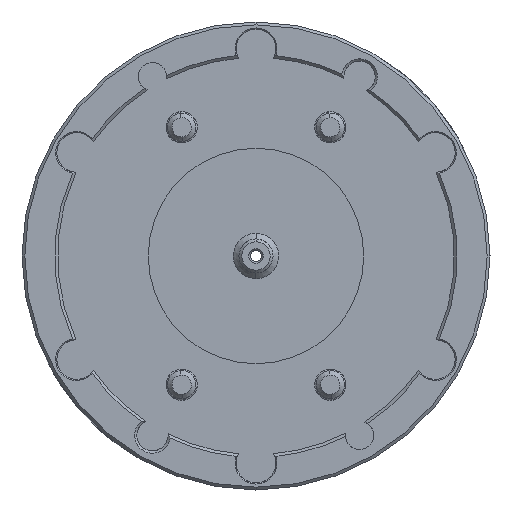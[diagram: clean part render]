
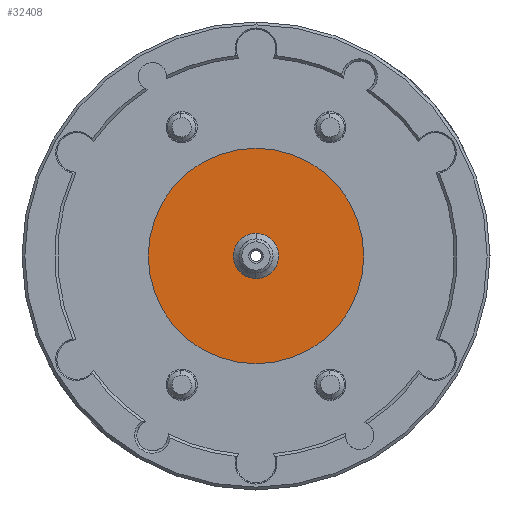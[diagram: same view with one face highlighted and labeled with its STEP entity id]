
A CAD part, left-side view. The second image highlights one B-rep face of the part: STEP entity #32408.
In plain terms, the highlighted planar face has unit normal (-1, 0, 0).
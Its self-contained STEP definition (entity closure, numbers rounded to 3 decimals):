
#4 = FACE_BOUND ( 'NONE', #19873, .T. ) ;
#24 = DIRECTION ( 'NONE',  ( 1., 0., 0. ) ) ;
#741 = CARTESIAN_POINT ( 'NONE',  ( -100., 0., 0. ) ) ;
#1840 = DIRECTION ( 'NONE',  ( 0., 0., -1. ) ) ;
#5923 = CARTESIAN_POINT ( 'NONE',  ( -100., 0., -38. ) ) ;
#6539 = EDGE_CURVE ( 'NONE', #42373, #39743, #6886, .T. ) ;
#6886 = CIRCLE ( 'NONE', #32316, 8. ) ;
#8845 = CARTESIAN_POINT ( 'NONE',  ( -100., 0., 0. ) ) ;
#10014 = DIRECTION ( 'NONE',  ( 0., 0., -1. ) ) ;
#10105 = DIRECTION ( 'NONE',  ( 1., 0., 0. ) ) ;
#10114 = AXIS2_PLACEMENT_3D ( 'NONE', #29188, #38804, #12912 ) ;
#10152 = CARTESIAN_POINT ( 'NONE',  ( -100., 0., 0. ) ) ;
#11942 = EDGE_CURVE ( 'NONE', #26613, #30673, #37397, .T. ) ;
#12218 = DIRECTION ( 'NONE',  ( 0., 0., -1. ) ) ;
#12912 = DIRECTION ( 'NONE',  ( 0., 0., -1. ) ) ;
#14712 = CARTESIAN_POINT ( 'NONE',  ( -100., 0., 38. ) ) ;
#16119 = AXIS2_PLACEMENT_3D ( 'NONE', #8845, #31772, #12218 ) ;
#17920 = EDGE_CURVE ( 'NONE', #39743, #42373, #25154, .T. ) ;
#19873 = EDGE_LOOP ( 'NONE', ( #31359, #31856 ) ) ;
#22232 = CARTESIAN_POINT ( 'NONE',  ( -100., 0.021, -8. ) ) ;
#25010 = CIRCLE ( 'NONE', #16119, 38. ) ;
#25154 = CIRCLE ( 'NONE', #36634, 8. ) ;
#25298 = FACE_OUTER_BOUND ( 'NONE', #42515, .T. ) ;
#26613 = VERTEX_POINT ( 'NONE', #5923 ) ;
#29188 = CARTESIAN_POINT ( 'NONE',  ( -100., -38., 0. ) ) ;
#30384 = AXIS2_PLACEMENT_3D ( 'NONE', #36798, #36758, #36708 ) ;
#30673 = VERTEX_POINT ( 'NONE', #14712 ) ;
#31359 = ORIENTED_EDGE ( 'NONE', *, *, #6539, .T. ) ;
#31772 = DIRECTION ( 'NONE',  ( 1., 0., 0. ) ) ;
#31856 = ORIENTED_EDGE ( 'NONE', *, *, #17920, .T. ) ;
#32316 = AXIS2_PLACEMENT_3D ( 'NONE', #741, #24, #1840 ) ;
#32408 = ADVANCED_FACE ( 'NONE', ( #4, #25298 ), #32472, .F. ) ;
#32472 = PLANE ( 'NONE',  #10114 ) ;
#32857 = ORIENTED_EDGE ( 'NONE', *, *, #11942, .F. ) ;
#33578 = ORIENTED_EDGE ( 'NONE', *, *, #36838, .F. ) ;
#36600 = CARTESIAN_POINT ( 'NONE',  ( -100., -0.021, 8. ) ) ;
#36634 = AXIS2_PLACEMENT_3D ( 'NONE', #10152, #10105, #10014 ) ;
#36708 = DIRECTION ( 'NONE',  ( 0., 0., -1. ) ) ;
#36758 = DIRECTION ( 'NONE',  ( 1., 0., 0. ) ) ;
#36798 = CARTESIAN_POINT ( 'NONE',  ( -100., 0., 0. ) ) ;
#36838 = EDGE_CURVE ( 'NONE', #30673, #26613, #25010, .T. ) ;
#37397 = CIRCLE ( 'NONE', #30384, 38. ) ;
#38804 = DIRECTION ( 'NONE',  ( 1., 0., 0. ) ) ;
#39743 = VERTEX_POINT ( 'NONE', #36600 ) ;
#42373 = VERTEX_POINT ( 'NONE', #22232 ) ;
#42515 = EDGE_LOOP ( 'NONE', ( #32857, #33578 ) ) ;
